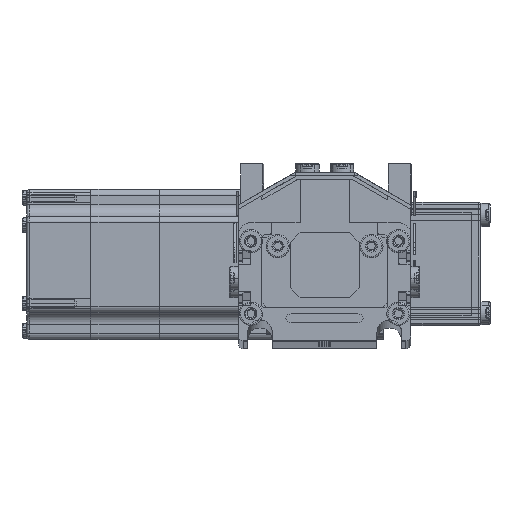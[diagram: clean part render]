
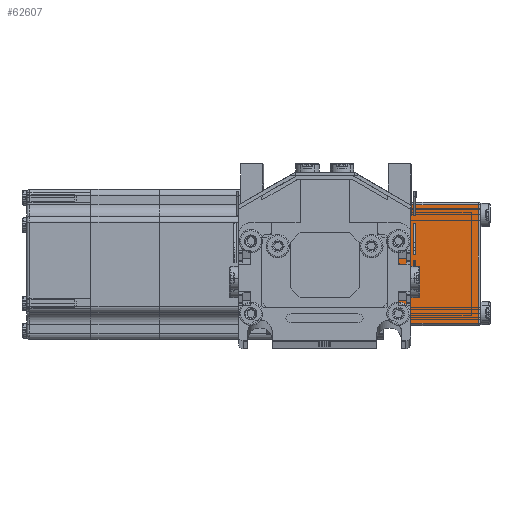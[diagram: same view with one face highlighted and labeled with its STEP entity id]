
A CAD part, top view. The second image highlights one B-rep face of the part: STEP entity #62607.
In plain terms, the highlighted planar face has unit normal (0, 0, 1) as drawn and (-1, 0, 0) by its records, which use the part's own axes.
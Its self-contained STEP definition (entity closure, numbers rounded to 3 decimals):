
#62233 = EDGE_CURVE ( 'NONE', #62361, #62360, #163954, .T. ) ;
#62242 = EDGE_LOOP ( 'NONE', ( #62481, #62301, #62249, #62305 ) ) ;
#62249 = ORIENTED_EDGE ( 'NONE', *, *, #62302, .T. ) ;
#62301 = ORIENTED_EDGE ( 'NONE', *, *, #62605, .T. ) ;
#62302 = EDGE_CURVE ( 'NONE', #62310, #62606, #164175, .T. ) ;
#62303 = EDGE_CURVE ( 'NONE', #62606, #62361, #164189, .T. ) ;
#62305 = ORIENTED_EDGE ( 'NONE', *, *, #62303, .T. ) ;
#62310 = VERTEX_POINT ( 'NONE', #164151 ) ;
#62360 = VERTEX_POINT ( 'NONE', #166051 ) ;
#62361 = VERTEX_POINT ( 'NONE', #166046 ) ;
#62481 = ORIENTED_EDGE ( 'NONE', *, *, #62233, .T. ) ;
#62605 = EDGE_CURVE ( 'NONE', #62360, #62310, #169068, .T. ) ;
#62606 = VERTEX_POINT ( 'NONE', #169178 ) ;
#62607 = ADVANCED_FACE ( 'NONE', ( #169074 ), #169058, .F. ) ;
#163943 = DIRECTION ( 'NONE',  ( 0., -1., 0. ) ) ;
#163944 = VECTOR ( 'NONE', #163943, 1000. ) ;
#163953 = CARTESIAN_POINT ( 'NONE',  ( -50., 25., 0. ) ) ;
#163954 = LINE ( 'NONE', #163953, #163944 ) ;
#164151 = CARTESIAN_POINT ( 'NONE',  ( -50., -24., 38.5 ) ) ;
#164158 = DIRECTION ( 'NONE',  ( 0., 0., -1. ) ) ;
#164159 = VECTOR ( 'NONE', #164158, 1000. ) ;
#164160 = CARTESIAN_POINT ( 'NONE',  ( -50., 24., 39.5 ) ) ;
#164168 = VECTOR ( 'NONE', #164192, 1000. ) ;
#164175 = LINE ( 'NONE', #164194, #164168 ) ;
#164189 = LINE ( 'NONE', #164160, #164159 ) ;
#164192 = DIRECTION ( 'NONE',  ( 0., 1., 0. ) ) ;
#164194 = CARTESIAN_POINT ( 'NONE',  ( -50., 25., 38.5 ) ) ;
#166046 = CARTESIAN_POINT ( 'NONE',  ( -50., 24., 0. ) ) ;
#166051 = CARTESIAN_POINT ( 'NONE',  ( -50., -24., 0. ) ) ;
#168925 = CARTESIAN_POINT ( 'NONE',  ( -50., 25., 39.5 ) ) ;
#169054 = DIRECTION ( 'NONE',  ( 1., 0., 0. ) ) ;
#169058 = PLANE ( 'NONE',  #169171 ) ;
#169068 = LINE ( 'NONE', #169184, #169182 ) ;
#169074 = FACE_OUTER_BOUND ( 'NONE', #62242, .T. ) ;
#169171 = AXIS2_PLACEMENT_3D ( 'NONE', #168925, #169054, #169185 ) ;
#169175 = DIRECTION ( 'NONE',  ( 0., 0., 1. ) ) ;
#169178 = CARTESIAN_POINT ( 'NONE',  ( -50., 24., 38.5 ) ) ;
#169182 = VECTOR ( 'NONE', #169175, 1000. ) ;
#169184 = CARTESIAN_POINT ( 'NONE',  ( -50., -24., 39.5 ) ) ;
#169185 = DIRECTION ( 'NONE',  ( 0., 1., 0. ) ) ;
